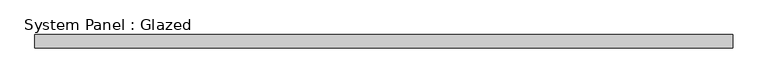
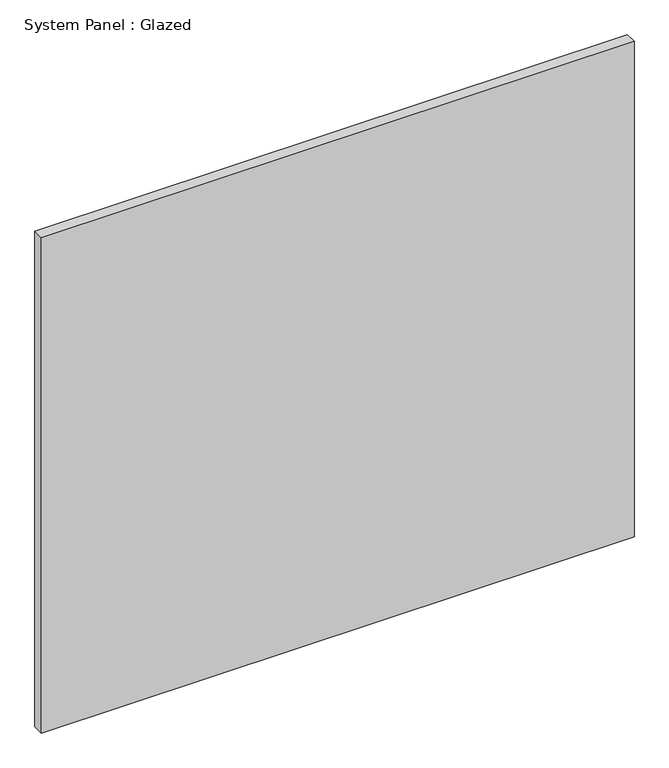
"""IFC4 building model written with IfcOpenShell, lengths in millimetres: plate geometry, System Panel : Glazed."""

from ifc_helpers import new_model, si_unit, origin, origin_with_axes, place, context, project, spatial, polyline, outline, extrude, source, transform, mapped, element, save


def system_panel_glazed_e7443a08(model_context):
    return source(origin(), model_context, "Body", "SweptSolid", [
        extrude(outline(polyline([(650.4893952, 24.5), (-650.4893952, 24.5), (-650.4893952, 49.5), (650.4893952, 49.5), (650.4893952, 24.5)])), origin_with_axes(), (0.0, 0.0, 1.0), 1150.0),
    ])


if __name__ == "__main__":
    model = new_model("IFC4")
    model_context = context("Model", 3, world=origin())
    ifc_project = project(units=[si_unit("LENGTHUNIT", "METRE", prefix="MILLI")], contexts=[model_context])
    site = spatial("IfcSite", under=ifc_project)
    building = spatial("IfcBuilding", under=site)
    placement = place(None, origin())
    system_panel_glazed_shape = system_panel_glazed_e7443a08(model_context)
    element("IfcPlate", 1, ObjectType="System Panel : Glazed", at=placement, inside=building, context=model_context, shape_type="MappedRepresentation", body=[
        mapped(system_panel_glazed_shape, transform((0.0, 0.0, 0.0), x_axis=(1.0, 0.0, 0.0), y_axis=(0.0, 1.0, 0.0), z_axis=(0.0, 0.0, 1.0))),
    ])
    save(model, "model.ifc")
